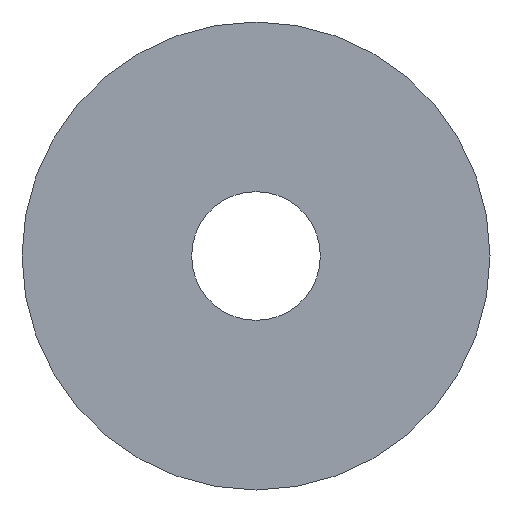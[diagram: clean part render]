
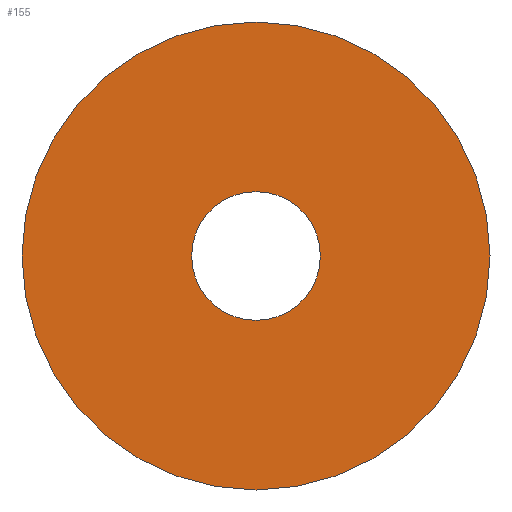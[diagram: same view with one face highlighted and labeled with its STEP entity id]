
A CAD part, front view. The second image highlights one B-rep face of the part: STEP entity #155.
In plain terms, the highlighted planar face has unit normal (0, -1, 0).
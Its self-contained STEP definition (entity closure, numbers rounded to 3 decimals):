
#84=CARTESIAN_POINT('',(-20.0,0.0,0.0));
#85=VERTEX_POINT('',#84);
#86=CARTESIAN_POINT('',(0.0,0.0,0.0));
#87=DIRECTION('',(0.0,1.0,0.0));
#88=DIRECTION('',(-1.0,0.0,0.0));
#89=AXIS2_PLACEMENT_3D('',#86,#87,#88);
#90=CIRCLE('',#89,20.0);
#91=EDGE_CURVE('',#85,#85,#90,.T.);
#136=CARTESIAN_POINT('',(-12.75,0.0,0.0));
#137=DIRECTION('',(0.0,-1.0,0.0));
#138=DIRECTION('',(0.0,0.0,-1.0));
#139=AXIS2_PLACEMENT_3D('',#136,#137,#138);
#140=PLANE('',#139);
#141=ORIENTED_EDGE('',*,*,#91,.F.);
#142=EDGE_LOOP('',(#141));
#143=FACE_OUTER_BOUND('',#142,.T.);
#144=CARTESIAN_POINT('',(-5.5,0.0,0.0));
#145=VERTEX_POINT('',#144);
#146=CARTESIAN_POINT('',(0.0,0.0,0.0));
#147=DIRECTION('',(0.0,1.0,0.0));
#148=DIRECTION('',(-1.0,0.0,0.0));
#149=AXIS2_PLACEMENT_3D('',#146,#147,#148);
#150=CIRCLE('',#149,5.5);
#151=EDGE_CURVE('',#145,#145,#150,.T.);
#152=ORIENTED_EDGE('',*,*,#151,.T.);
#153=EDGE_LOOP('',(#152));
#154=FACE_BOUND('',#153,.T.);
#155=ADVANCED_FACE('',(#143,#154),#140,.T.);
